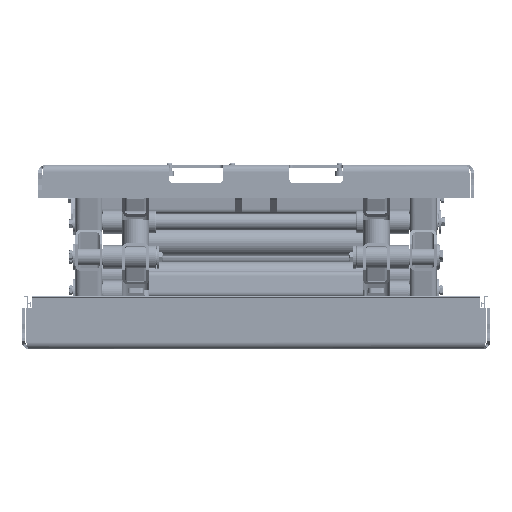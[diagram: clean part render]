
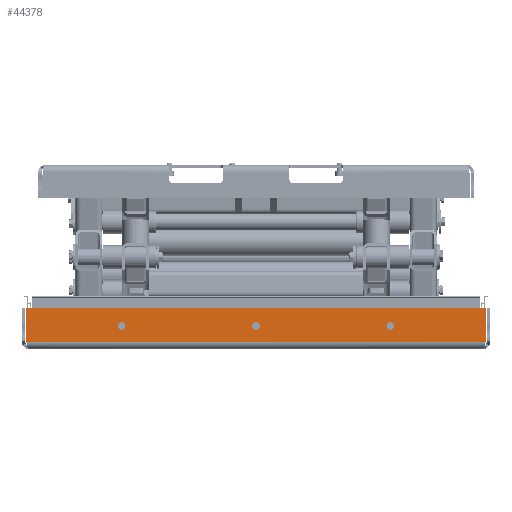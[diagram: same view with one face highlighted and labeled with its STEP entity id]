
A CAD part, front view. The second image highlights one B-rep face of the part: STEP entity #44378.
In plain terms, the highlighted planar face has unit normal (0, -1, 0).
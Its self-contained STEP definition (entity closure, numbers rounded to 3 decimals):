
#2280=PLANE('',#47484);
#4236=LINE('',#69567,#8267);
#4242=LINE('',#69600,#8273);
#4246=LINE('',#69674,#8277);
#4248=LINE('',#69677,#8279);
#8267=VECTOR('',#53817,687.);
#8273=VECTOR('',#53827,50.5);
#8277=VECTOR('',#53833,50.5);
#8279=VECTOR('',#53837,687.);
#11561=FACE_BOUND('',#15097,.T.);
#11562=FACE_BOUND('',#15098,.T.);
#11563=FACE_BOUND('',#15099,.T.);
#12426=FACE_OUTER_BOUND('',#15096,.T.);
#15096=EDGE_LOOP('',(#33114,#33115,#33116,#33117));
#15097=EDGE_LOOP('',(#33118));
#15098=EDGE_LOOP('',(#33119));
#15099=EDGE_LOOP('',(#33120));
#17784=CIRCLE('',#47453,5.75);
#17788=CIRCLE('',#47459,5.75);
#17792=CIRCLE('',#47465,5.75);
#20083=VERTEX_POINT('',#69398);
#20087=VERTEX_POINT('',#69408);
#20091=VERTEX_POINT('',#69418);
#20103=VERTEX_POINT('',#69565);
#20104=VERTEX_POINT('',#69566);
#20109=VERTEX_POINT('',#69599);
#20110=VERTEX_POINT('',#69673);
#24973=EDGE_CURVE('',#20083,#20083,#17784,.T.);
#24977=EDGE_CURVE('',#20087,#20087,#17788,.T.);
#24981=EDGE_CURVE('',#20091,#20091,#17792,.T.);
#25005=EDGE_CURVE('',#20103,#20104,#4236,.T.);
#25013=EDGE_CURVE('',#20109,#20104,#4242,.T.);
#25019=EDGE_CURVE('',#20103,#20110,#4246,.T.);
#25021=EDGE_CURVE('',#20110,#20109,#4248,.T.);
#33114=ORIENTED_EDGE('',*,*,#25005,.T.);
#33115=ORIENTED_EDGE('',*,*,#25013,.F.);
#33116=ORIENTED_EDGE('',*,*,#25021,.F.);
#33117=ORIENTED_EDGE('',*,*,#25019,.F.);
#33118=ORIENTED_EDGE('',*,*,#24973,.T.);
#33119=ORIENTED_EDGE('',*,*,#24977,.T.);
#33120=ORIENTED_EDGE('',*,*,#24981,.T.);
#44378=ADVANCED_FACE('',(#12426,#11561,#11562,#11563),#2280,.T.);
#47453=AXIS2_PLACEMENT_3D('',#69399,#53747,#53748);
#47459=AXIS2_PLACEMENT_3D('',#69409,#53759,#53760);
#47465=AXIS2_PLACEMENT_3D('',#69419,#53771,#53772);
#47484=AXIS2_PLACEMENT_3D('',#69678,#53838,#53839);
#53747=DIRECTION('center_axis',(0.,1.,0.));
#53748=DIRECTION('ref_axis',(1.,0.,0.));
#53759=DIRECTION('center_axis',(0.,1.,0.));
#53760=DIRECTION('ref_axis',(1.,0.,0.));
#53771=DIRECTION('center_axis',(0.,1.,0.));
#53772=DIRECTION('ref_axis',(1.,0.,0.));
#53817=DIRECTION('',(-1.,0.,0.));
#53827=DIRECTION('',(0.,0.,1.));
#53833=DIRECTION('',(0.,0.,-1.));
#53837=DIRECTION('',(-1.,0.,0.));
#53838=DIRECTION('center_axis',(0.,-1.,0.));
#53839=DIRECTION('ref_axis',(1.,0.,0.));
#69398=CARTESIAN_POINT('',(-195.25,-450.,-29.3));
#69399=CARTESIAN_POINT('Origin',(-201.,-450.,-29.3));
#69408=CARTESIAN_POINT('',(5.75,-450.,-29.3));
#69409=CARTESIAN_POINT('Origin',(0.,-450.,-29.3));
#69418=CARTESIAN_POINT('',(206.75,-450.,-29.3));
#69419=CARTESIAN_POINT('Origin',(201.,-450.,-29.3));
#69565=CARTESIAN_POINT('',(343.5,-450.,-5.));
#69566=CARTESIAN_POINT('',(-343.5,-450.,-5.));
#69567=CARTESIAN_POINT('',(0.,-450.,-5.));
#69599=CARTESIAN_POINT('',(-343.5,-450.,-55.5));
#69600=CARTESIAN_POINT('',(-343.5,-450.,-5.));
#69673=CARTESIAN_POINT('',(343.5,-450.,-55.5));
#69674=CARTESIAN_POINT('',(343.5,-450.,-5.));
#69677=CARTESIAN_POINT('',(343.5,-450.,-55.5));
#69678=CARTESIAN_POINT('Origin',(0.,-450.,-25.268));
